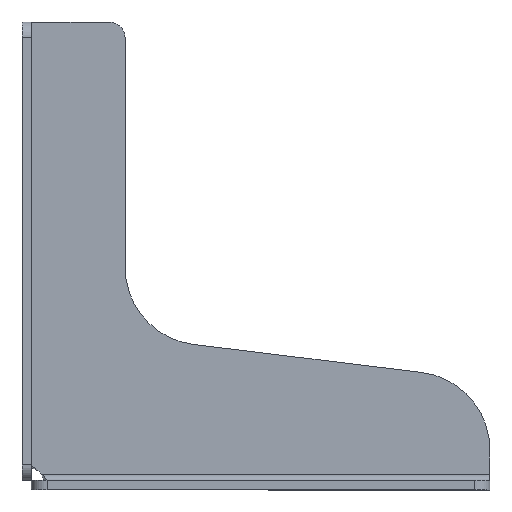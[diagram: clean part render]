
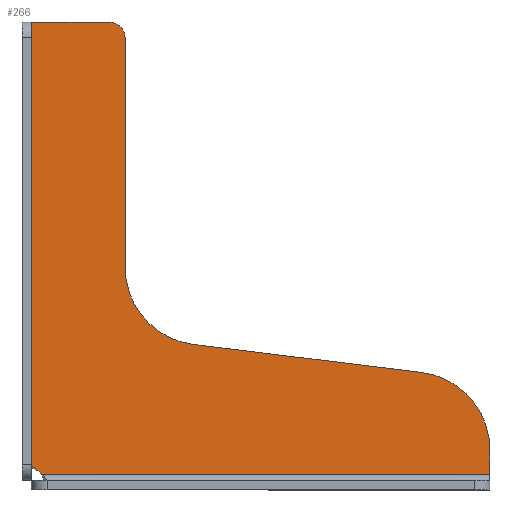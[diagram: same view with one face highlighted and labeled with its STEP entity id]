
A CAD part, top view. The second image highlights one B-rep face of the part: STEP entity #266.
In plain terms, the highlighted planar face has unit normal (0, 0, 1).
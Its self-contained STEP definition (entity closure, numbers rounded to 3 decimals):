
#9 = LINE ( 'NONE', #1247, #379 ) ;
#19 = CARTESIAN_POINT ( 'NONE',  ( -10.824, -7.039, 3. ) ) ;
#45 = CIRCLE ( 'NONE', #864, 7.5 ) ;
#48 = EDGE_CURVE ( 'NONE', #77, #629, #377, .T. ) ;
#55 = LINE ( 'NONE', #400, #1232 ) ;
#77 = VERTEX_POINT ( 'NONE', #1286 ) ;
#78 = ORIENTED_EDGE ( 'NONE', *, *, #131, .F. ) ;
#89 = AXIS2_PLACEMENT_3D ( 'NONE', #638, #1198, #193 ) ;
#93 = CARTESIAN_POINT ( 'NONE',  ( 19.179, 64.456, 3. ) ) ;
#119 = DIRECTION ( 'NONE',  ( -1., 0., 0. ) ) ;
#131 = EDGE_CURVE ( 'NONE', #182, #198, #898, .T. ) ;
#152 = CARTESIAN_POINT ( 'NONE',  ( -9.858, 0.208, 3. ) ) ;
#175 = DIRECTION ( 'NONE',  ( 1., 0., 0. ) ) ;
#182 = VERTEX_POINT ( 'NONE', #624 ) ;
#188 = PLANE ( 'NONE',  #89 ) ;
#192 = ORIENTED_EDGE ( 'NONE', *, *, #352, .T. ) ;
#193 = DIRECTION ( 'NONE',  ( -1., 0., 0. ) ) ;
#198 = VERTEX_POINT ( 'NONE', #643 ) ;
#203 = ORIENTED_EDGE ( 'NONE', *, *, #48, .T. ) ;
#208 = VECTOR ( 'NONE', #1374, 1000. ) ;
#230 = VECTOR ( 'NONE', #119, 1000. ) ;
#265 = CARTESIAN_POINT ( 'NONE',  ( -9.35, -0.157, 3. ) ) ;
#266 = ADVANCED_FACE ( 'NONE', ( #756 ), #188, .F. ) ;
#287 = AXIS2_PLACEMENT_3D ( 'NONE', #1219, #556, #998 ) ;
#299 = ORIENTED_EDGE ( 'NONE', *, *, #782, .T. ) ;
#305 = VECTOR ( 'NONE', #478, 1000. ) ;
#348 = ORIENTED_EDGE ( 'NONE', *, *, #1392, .T. ) ;
#352 = EDGE_CURVE ( 'NONE', #623, #77, #784, .T. ) ;
#360 = CARTESIAN_POINT ( 'NONE',  ( -13.473, -6.68, 3. ) ) ;
#377 = CIRCLE ( 'NONE', #915, 5. ) ;
#379 = VECTOR ( 'NONE', #810, 1000. ) ;
#395 = ORIENTED_EDGE ( 'NONE', *, *, #1255, .T. ) ;
#400 = CARTESIAN_POINT ( 'NONE',  ( 44.179, -2.03, 3. ) ) ;
#403 = DIRECTION ( 'NONE',  ( -1., 0., 0. ) ) ;
#423 = EDGE_CURVE ( 'NONE', #1022, #623, #1100, .T. ) ;
#433 = EDGE_CURVE ( 'NONE', #858, #1310, #449, .T. ) ;
#449 = LINE ( 'NONE', #1452, #477 ) ;
#457 = DIRECTION ( 'NONE',  ( 0., 1., 0. ) ) ;
#460 = ORIENTED_EDGE ( 'NONE', *, *, #1188, .F. ) ;
#462 = EDGE_CURVE ( 'NONE', #182, #1197, #45, .T. ) ;
#464 = DIRECTION ( 'NONE',  ( 0., 1., 0. ) ) ;
#474 = CIRCLE ( 'NONE', #1288, 25. ) ;
#477 = VECTOR ( 'NONE', #464, 1000. ) ;
#478 = DIRECTION ( 'NONE',  ( 0., 1., 0. ) ) ;
#514 = CARTESIAN_POINT ( 'NONE',  ( 14.179, 137.972, 3. ) ) ;
#515 = CARTESIAN_POINT ( 'NONE',  ( 14.179, 142.972, 3. ) ) ;
#529 = ORIENTED_EDGE ( 'NONE', *, *, #781, .T. ) ;
#556 = DIRECTION ( 'NONE',  ( 0., 0., -1. ) ) ;
#569 = VERTEX_POINT ( 'NONE', #1385 ) ;
#581 = CARTESIAN_POINT ( 'NONE',  ( 136.179, -2.03, 3. ) ) ;
#583 = LINE ( 'NONE', #19, #305 ) ;
#598 = CARTESIAN_POINT ( 'NONE',  ( -10.04, 0.309, 3. ) ) ;
#603 = CARTESIAN_POINT ( 'NONE',  ( -10.419, 0.469, 3. ) ) ;
#609 = CARTESIAN_POINT ( 'NONE',  ( -9.075, -0.465, 3. ) ) ;
#623 = VERTEX_POINT ( 'NONE', #93 ) ;
#624 = CARTESIAN_POINT ( 'NONE',  ( -8.824, -0.795, 3. ) ) ;
#629 = VERTEX_POINT ( 'NONE', #515 ) ;
#638 = CARTESIAN_POINT ( 'NONE',  ( 44.179, 64.456, 3. ) ) ;
#643 = CARTESIAN_POINT ( 'NONE',  ( -10.824, 0.571, 3. ) ) ;
#666 = CARTESIAN_POINT ( 'NONE',  ( 41.132, 39.642, 3. ) ) ;
#680 = LINE ( 'NONE', #1122, #230 ) ;
#688 = CARTESIAN_POINT ( 'NONE',  ( -7.588, -2.03, 3. ) ) ;
#714 = CARTESIAN_POINT ( 'NONE',  ( -10.824, 0.571, 3. ) ) ;
#733 = CARTESIAN_POINT ( 'NONE',  ( 111.179, 5.854, 3. ) ) ;
#756 = FACE_OUTER_BOUND ( 'NONE', #978, .T. ) ;
#781 = EDGE_CURVE ( 'NONE', #629, #879, #9, .T. ) ;
#782 = EDGE_CURVE ( 'NONE', #569, #1022, #1238, .T. ) ;
#784 = LINE ( 'NONE', #1024, #1241 ) ;
#810 = DIRECTION ( 'NONE',  ( -1., 0., 0. ) ) ;
#845 = DIRECTION ( 'NONE',  ( 1., 0., 0. ) ) ;
#858 = VERTEX_POINT ( 'NONE', #581 ) ;
#864 = AXIS2_PLACEMENT_3D ( 'NONE', #360, #1250, #1159 ) ;
#879 = VERTEX_POINT ( 'NONE', #1261 ) ;
#898 = B_SPLINE_CURVE_WITH_KNOTS ( 'NONE', 3,
 ( #930, #609, #265, #152, #598, #603, #1049, #714 ),
 .UNSPECIFIED., .F., .F.,
 ( 4, 2, 2, 4 ),
 ( 0., 0.001, 0.002, 0.002 ),
 .UNSPECIFIED. ) ;
#915 = AXIS2_PLACEMENT_3D ( 'NONE', #514, #957, #403 ) ;
#930 = CARTESIAN_POINT ( 'NONE',  ( -8.824, -0.795, 3. ) ) ;
#952 = ORIENTED_EDGE ( 'NONE', *, *, #423, .T. ) ;
#955 = DIRECTION ( 'NONE',  ( 0., 0., 1. ) ) ;
#957 = DIRECTION ( 'NONE',  ( 0., 0., 1. ) ) ;
#966 = ORIENTED_EDGE ( 'NONE', *, *, #433, .T. ) ;
#978 = EDGE_LOOP ( 'NONE', ( #192, #203, #529, #1145, #460, #78, #1391, #348, #966, #395, #299, #952 ) ) ;
#998 = DIRECTION ( 'NONE',  ( -1., 0., 0. ) ) ;
#1022 = VERTEX_POINT ( 'NONE', #666 ) ;
#1024 = CARTESIAN_POINT ( 'NONE',  ( 19.179, 142.972, 3. ) ) ;
#1049 = CARTESIAN_POINT ( 'NONE',  ( -10.619, 0.528, 3. ) ) ;
#1070 = CARTESIAN_POINT ( 'NONE',  ( 136.179, 5.854, 3. ) ) ;
#1084 = EDGE_CURVE ( 'NONE', #879, #1180, #680, .T. ) ;
#1100 = CIRCLE ( 'NONE', #287, 25. ) ;
#1120 = CARTESIAN_POINT ( 'NONE',  ( 114.225, 30.667, 3. ) ) ;
#1122 = CARTESIAN_POINT ( 'NONE',  ( -8.824, 142.972, 3. ) ) ;
#1145 = ORIENTED_EDGE ( 'NONE', *, *, #1084, .T. ) ;
#1159 = DIRECTION ( 'NONE',  ( 1., 0., 0. ) ) ;
#1180 = VERTEX_POINT ( 'NONE', #1240 ) ;
#1188 = EDGE_CURVE ( 'NONE', #198, #1180, #583, .T. ) ;
#1197 = VERTEX_POINT ( 'NONE', #688 ) ;
#1198 = DIRECTION ( 'NONE',  ( 0., 0., -1. ) ) ;
#1219 = CARTESIAN_POINT ( 'NONE',  ( 44.179, 64.456, 3. ) ) ;
#1232 = VECTOR ( 'NONE', #845, 1000. ) ;
#1238 = LINE ( 'NONE', #1120, #208 ) ;
#1240 = CARTESIAN_POINT ( 'NONE',  ( -10.824, 142.972, 3. ) ) ;
#1241 = VECTOR ( 'NONE', #457, 1000. ) ;
#1247 = CARTESIAN_POINT ( 'NONE',  ( -42.321, 142.972, 3. ) ) ;
#1250 = DIRECTION ( 'NONE',  ( 0., 0., -1. ) ) ;
#1255 = EDGE_CURVE ( 'NONE', #1310, #569, #474, .T. ) ;
#1261 = CARTESIAN_POINT ( 'NONE',  ( -8.824, 142.972, 3. ) ) ;
#1286 = CARTESIAN_POINT ( 'NONE',  ( 19.179, 137.972, 3. ) ) ;
#1288 = AXIS2_PLACEMENT_3D ( 'NONE', #733, #955, #175 ) ;
#1310 = VERTEX_POINT ( 'NONE', #1070 ) ;
#1374 = DIRECTION ( 'NONE',  ( -0.993, 0.122, 0. ) ) ;
#1385 = CARTESIAN_POINT ( 'NONE',  ( 114.225, 30.667, 3. ) ) ;
#1391 = ORIENTED_EDGE ( 'NONE', *, *, #462, .T. ) ;
#1392 = EDGE_CURVE ( 'NONE', #1197, #858, #55, .T. ) ;
#1452 = CARTESIAN_POINT ( 'NONE',  ( 136.179, 5.854, 3. ) ) ;
